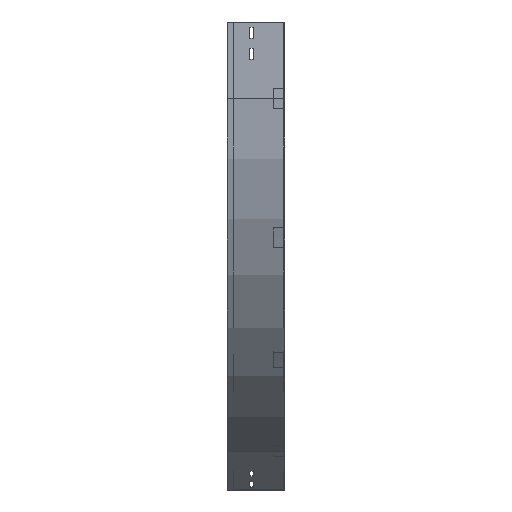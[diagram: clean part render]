
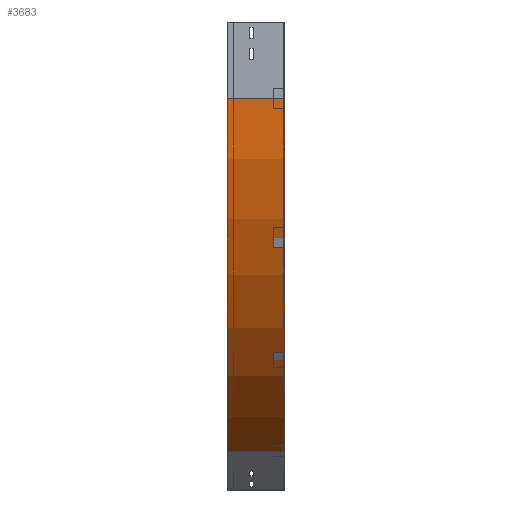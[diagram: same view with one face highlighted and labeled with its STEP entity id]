
A CAD part, left-side view. The second image highlights one B-rep face of the part: STEP entity #3683.
In plain terms, the highlighted cylindrical face has radius 800 mm (diameter 1600 mm), a partial arc.
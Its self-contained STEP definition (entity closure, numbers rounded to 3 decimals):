
#53 = EDGE_CURVE ( 'NONE', #713, #1647, #1228, .T. ) ;
#279 = EDGE_CURVE ( 'NONE', #1647, #1927, #2286, .T. ) ;
#298 = AXIS2_PLACEMENT_3D ( 'NONE', #1181, #1213, #2319 ) ;
#307 = VECTOR ( 'NONE', #3544, 1000. ) ;
#341 = DIRECTION ( 'NONE',  ( 0., -1., 0. ) ) ;
#454 = EDGE_LOOP ( 'NONE', ( #1820, #1198, #549, #1457 ) ) ;
#549 = ORIENTED_EDGE ( 'NONE', *, *, #53, .T. ) ;
#581 = FACE_OUTER_BOUND ( 'NONE', #454, .T. ) ;
#713 = VERTEX_POINT ( 'NONE', #1650 ) ;
#961 = DIRECTION ( 'NONE',  ( 0., -1., 0. ) ) ;
#1181 = CARTESIAN_POINT ( 'NONE',  ( 800., 0., -150. ) ) ;
#1198 = ORIENTED_EDGE ( 'NONE', *, *, #1460, .F. ) ;
#1213 = DIRECTION ( 'NONE',  ( 0., -1., 0. ) ) ;
#1215 = VECTOR ( 'NONE', #341, 1000. ) ;
#1228 = CIRCLE ( 'NONE', #1232, 800. ) ;
#1232 = AXIS2_PLACEMENT_3D ( 'NONE', #1834, #961, #1247 ) ;
#1240 = CARTESIAN_POINT ( 'NONE',  ( 800., 0., -150. ) ) ;
#1247 = DIRECTION ( 'NONE',  ( -1., 0., 0. ) ) ;
#1309 = AXIS2_PLACEMENT_3D ( 'NONE', #1240, #3322, #3027 ) ;
#1457 = ORIENTED_EDGE ( 'NONE', *, *, #279, .T. ) ;
#1460 = EDGE_CURVE ( 'NONE', #713, #3561, #3626, .T. ) ;
#1647 = VERTEX_POINT ( 'NONE', #1972 ) ;
#1650 = CARTESIAN_POINT ( 'NONE',  ( 0., 112.5, -150. ) ) ;
#1703 = CARTESIAN_POINT ( 'NONE',  ( 0., 0., -150. ) ) ;
#1748 = EDGE_CURVE ( 'NONE', #3561, #1927, #2681, .T. ) ;
#1820 = ORIENTED_EDGE ( 'NONE', *, *, #1748, .F. ) ;
#1834 = CARTESIAN_POINT ( 'NONE',  ( 800., 112.5, -150. ) ) ;
#1927 = VERTEX_POINT ( 'NONE', #3500 ) ;
#1972 = CARTESIAN_POINT ( 'NONE',  ( 400., 112.5, -842.82 ) ) ;
#1982 = CARTESIAN_POINT ( 'NONE',  ( 400., 0., -842.82 ) ) ;
#2286 = LINE ( 'NONE', #1982, #307 ) ;
#2319 = DIRECTION ( 'NONE',  ( 0., 0., -1. ) ) ;
#2681 = CIRCLE ( 'NONE', #1309, 800. ) ;
#2687 = CYLINDRICAL_SURFACE ( 'NONE', #298, 800. ) ;
#2745 = CARTESIAN_POINT ( 'NONE',  ( 0., 0., -150. ) ) ;
#3027 = DIRECTION ( 'NONE',  ( -1., 0., 0. ) ) ;
#3322 = DIRECTION ( 'NONE',  ( 0., -1., 0. ) ) ;
#3500 = CARTESIAN_POINT ( 'NONE',  ( 400., 0., -842.82 ) ) ;
#3544 = DIRECTION ( 'NONE',  ( 0., -1., 0. ) ) ;
#3561 = VERTEX_POINT ( 'NONE', #1703 ) ;
#3626 = LINE ( 'NONE', #2745, #1215 ) ;
#3683 = ADVANCED_FACE ( 'NONE', ( #581 ), #2687, .T. ) ;
